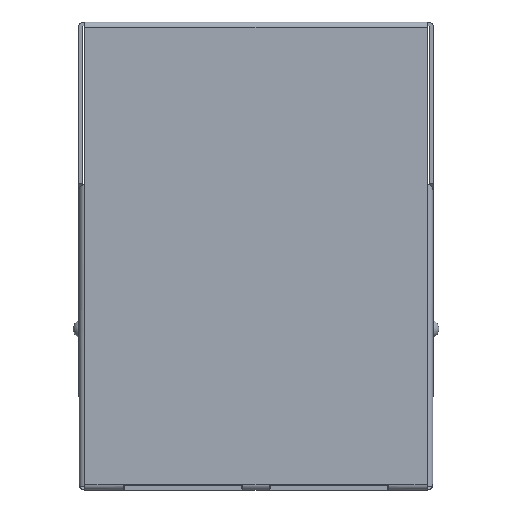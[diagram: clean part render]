
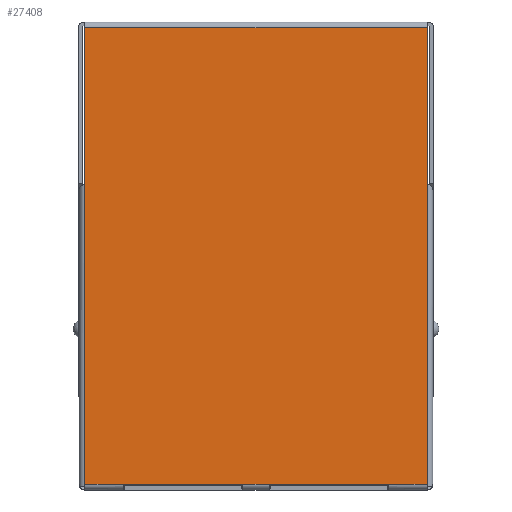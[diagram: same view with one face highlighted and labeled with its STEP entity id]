
A CAD part, front view. The second image highlights one B-rep face of the part: STEP entity #27408.
In plain terms, the highlighted planar face has unit normal (0, -1, 0).
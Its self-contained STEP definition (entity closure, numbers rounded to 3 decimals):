
#23874=DIRECTION('',(1.,0.,0.));
#23875=VECTOR('',#23874,5.28);
#23876=CARTESIAN_POINT('',(-5.93,-12.9,-20.55));
#23877=LINE('',#23876,#23875);
#23883=CARTESIAN_POINT('',(-0.65,-12.9,-20.55));
#24072=DIRECTION('',(1.,0.,0.));
#24073=VECTOR('',#24072,5.28);
#24074=CARTESIAN_POINT('',(0.65,-12.9,-20.55));
#24075=LINE('',#24074,#24073);
#24084=DIRECTION('',(1.,0.,0.));
#24085=VECTOR('',#24084,1.79);
#24086=CARTESIAN_POINT('',(-7.72,-12.9,-20.55));
#24087=LINE('',#24086,#24085);
#24088=DIRECTION('',(0.,0.,1.));
#24089=VECTOR('',#24088,7.073);
#24090=CARTESIAN_POINT('',(-7.72,-12.9,-7.023));
#24091=LINE('',#24090,#24089);
#24092=DIRECTION('',(1.,0.,0.));
#24093=VECTOR('',#24092,15.44);
#24094=CARTESIAN_POINT('',(-7.72,-12.9,0.05));
#24095=LINE('',#24094,#24093);
#24096=DIRECTION('',(0.,0.,-1.));
#24097=VECTOR('',#24096,7.073);
#24098=CARTESIAN_POINT('',(7.72,-12.9,0.05));
#24099=LINE('',#24098,#24097);
#24100=DIRECTION('',(-1.,0.,0.));
#24101=VECTOR('',#24100,1.79);
#24102=CARTESIAN_POINT('',(7.72,-12.9,-20.55));
#24103=LINE('',#24102,#24101);
#24104=DIRECTION('',(-1.,0.,0.));
#24105=VECTOR('',#24104,1.3);
#24106=CARTESIAN_POINT('',(0.65,-12.9,-20.55));
#24107=LINE('',#24106,#24105);
#26183=DIRECTION('',(0.,0.,1.));
#26184=VECTOR('',#26183,13.527);
#26185=CARTESIAN_POINT('',(7.72,-12.9,-20.55));
#26186=LINE('',#26185,#26184);
#26187=CARTESIAN_POINT('',(7.72,-12.9,-7.023));
#26233=DIRECTION('',(0.,0.,-1.));
#26234=VECTOR('',#26233,13.527);
#26235=CARTESIAN_POINT('',(-7.72,-12.9,-7.023));
#26236=LINE('',#26235,#26234);
#26275=CARTESIAN_POINT('',(5.93,-12.9,-20.55));
#26386=VERTEX_POINT('',#26187);
#26490=CARTESIAN_POINT('',(-7.72,-12.9,-7.023));
#26491=VERTEX_POINT('',#26490);
#26884=CARTESIAN_POINT('',(7.72,-12.9,0.05));
#26886=VERTEX_POINT('',#26884);
#26887=CARTESIAN_POINT('',(-7.72,-12.9,0.05));
#26888=VERTEX_POINT('',#26887);
#26998=CARTESIAN_POINT('',(-7.72,-12.9,-20.55));
#26999=CARTESIAN_POINT('',(-5.93,-12.9,-20.55));
#27000=VERTEX_POINT('',#26998);
#27001=VERTEX_POINT('',#26999);
#27012=VERTEX_POINT('',#23883);
#27013=CARTESIAN_POINT('',(0.65,-12.9,-20.55));
#27014=VERTEX_POINT('',#27013);
#27023=VERTEX_POINT('',#26275);
#27024=CARTESIAN_POINT('',(7.72,-12.9,-20.55));
#27025=VERTEX_POINT('',#27024);
#27385=CARTESIAN_POINT('',(0.,-12.9,0.));
#27386=DIRECTION('',(0.,-1.,0.));
#27387=DIRECTION('',(0.,0.,-1.));
#27388=AXIS2_PLACEMENT_3D('',#27385,#27386,#27387);
#27389=PLANE('',#27388);
#27391=ORIENTED_EDGE('',*,*,#27390,.F.);
#27393=ORIENTED_EDGE('',*,*,#27392,.F.);
#27395=ORIENTED_EDGE('',*,*,#27394,.T.);
#27397=ORIENTED_EDGE('',*,*,#27396,.T.);
#27399=ORIENTED_EDGE('',*,*,#27398,.T.);
#27401=ORIENTED_EDGE('',*,*,#27400,.F.);
#27402=ORIENTED_EDGE('',*,*,#27294,.T.);
#27403=ORIENTED_EDGE('',*,*,#27377,.F.);
#27404=ORIENTED_EDGE('',*,*,#27126,.T.);
#27405=ORIENTED_EDGE('',*,*,#27097,.F.);
#27406=EDGE_LOOP('',(#27391,#27393,#27395,#27397,#27399,#27401,#27402,#27403,
#27404,#27405));
#27407=FACE_OUTER_BOUND('',#27406,.F.);
#27408=ADVANCED_FACE('',(#27407),#27389,.T.);
#27097=EDGE_CURVE('',#27001,#27012,#23877,.T.);
#27126=EDGE_CURVE('',#27014,#27012,#24107,.T.);
#27294=EDGE_CURVE('',#27025,#27023,#24103,.T.);
#27377=EDGE_CURVE('',#27014,#27023,#24075,.T.);
#27390=EDGE_CURVE('',#27000,#27001,#24087,.T.);
#27392=EDGE_CURVE('',#26491,#27000,#26236,.T.);
#27394=EDGE_CURVE('',#26491,#26888,#24091,.T.);
#27396=EDGE_CURVE('',#26888,#26886,#24095,.T.);
#27398=EDGE_CURVE('',#26886,#26386,#24099,.T.);
#27400=EDGE_CURVE('',#27025,#26386,#26186,.T.);
